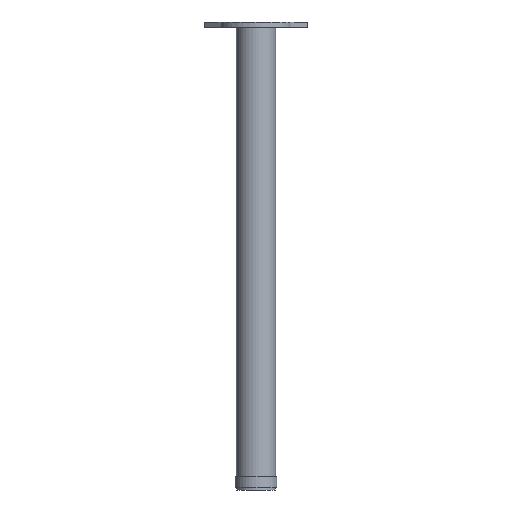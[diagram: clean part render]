
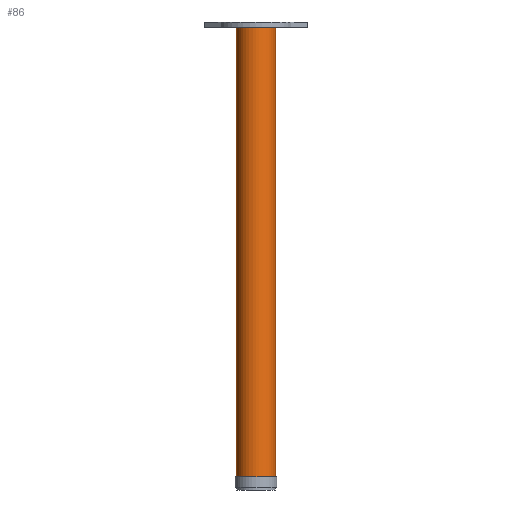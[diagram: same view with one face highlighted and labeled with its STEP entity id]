
A CAD part, front view. The second image highlights one B-rep face of the part: STEP entity #86.
In plain terms, the highlighted cylindrical face has radius 30 mm (diameter 60 mm), a full revolution.
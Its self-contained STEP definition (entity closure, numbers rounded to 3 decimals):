
#86 = ADVANCED_FACE( '', ( #202, #203 ), #204, .T. );
#202 = FACE_OUTER_BOUND( '', #379, .T. );
#203 = FACE_OUTER_BOUND( '', #380, .T. );
#204 = CYLINDRICAL_SURFACE( '', #381, 30. );
#379 = EDGE_LOOP( '', ( #589 ) );
#380 = EDGE_LOOP( '', ( #590 ) );
#381 = AXIS2_PLACEMENT_3D( '', #591, #592, #593 );
#589 = ORIENTED_EDGE( '', *, *, #949, .T. );
#590 = ORIENTED_EDGE( '', *, *, #946, .T. );
#591 = CARTESIAN_POINT( '', ( 0., 0., 1000. ) );
#592 = DIRECTION( '', ( 0., 0., -1. ) );
#593 = DIRECTION( '', ( 1., 0., 0. ) );
#946 = EDGE_CURVE( '', #1124, #1124, #1125, .T. );
#949 = EDGE_CURVE( '', #1129, #1129, #1130, .F. );
#1124 = VERTEX_POINT( '', #1379 );
#1125 = CIRCLE( '', #1380, 30. );
#1129 = VERTEX_POINT( '', #1384 );
#1130 = CIRCLE( '', #1385, 30. );
#1379 = CARTESIAN_POINT( '', ( 30., 0., -690. ) );
#1380 = AXIS2_PLACEMENT_3D( '', #1613, #1614, #1615 );
#1384 = CARTESIAN_POINT( '', ( 30., 0., -8. ) );
#1385 = AXIS2_PLACEMENT_3D( '', #1619, #1620, #1621 );
#1613 = CARTESIAN_POINT( '', ( 0., 0., -690. ) );
#1614 = DIRECTION( '', ( 0., 0., 1. ) );
#1615 = DIRECTION( '', ( 1., 0., 0. ) );
#1619 = CARTESIAN_POINT( '', ( 0., 0., -8. ) );
#1620 = DIRECTION( '', ( 0., 0., 1. ) );
#1621 = DIRECTION( '', ( 1., 0., 0. ) );
